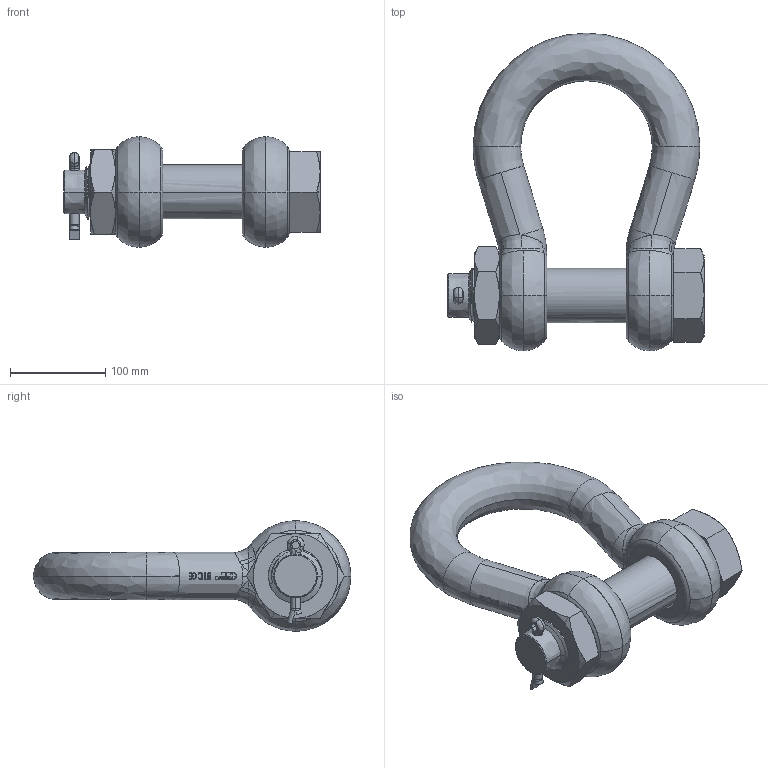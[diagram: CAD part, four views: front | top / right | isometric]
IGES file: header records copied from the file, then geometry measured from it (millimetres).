
Start section: START RECORD GO HERE.
Global section: file name: POGHMB50.igs; native system: Solidworks 2009                             ; preprocessor: Solidworks                 ; author: v.b.; organization: P4; date: 20090826.095415; units: millimetre
Bounding box: 269 x 333.5 x 116 mm (x, y, z)
Surface area: 245428.3 mm2 (no closed solid volume)
Topology: 0 solids, 0 shells, 770 faces, 5062 edges, 5054 vertices
Faces by surface type: bspline 362, plane 244, revolution 164
